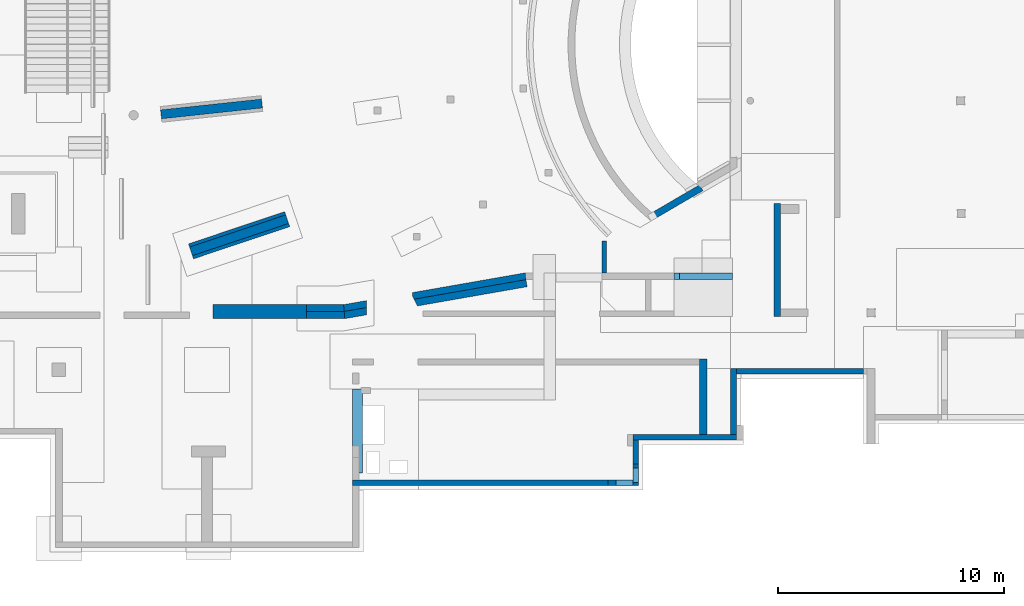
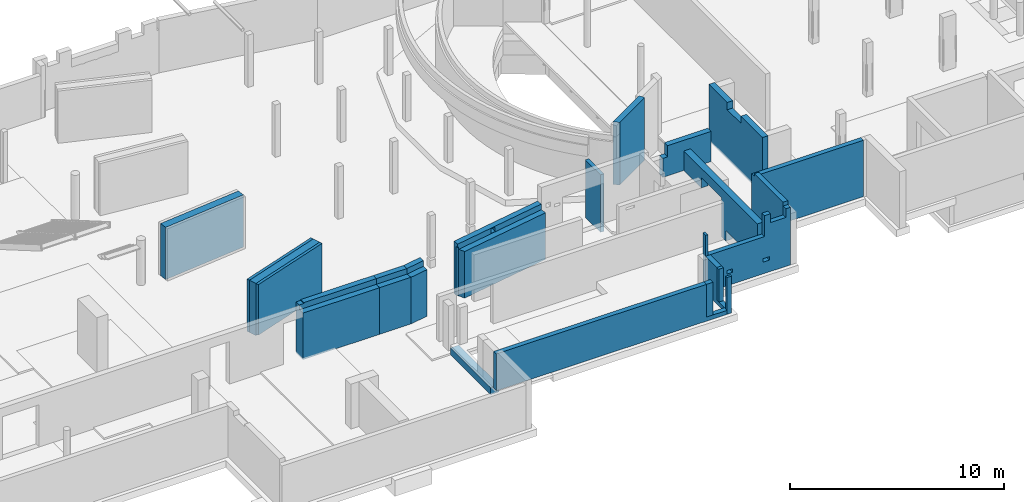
# One storey, part 33 of 42: 22 walls, 13 openings.
"""IFC2X3 building model written with IfcOpenShell, lengths in millimetres."""

from ifc_helpers import new_model, entity, si_unit, converted_unit, derived_unit, direction, frame, frame_2d, origin, origin_2d_with_axis, place, context, subcontext, project, spatial, polyline, circle_curve, parameter, trimmed, segment, composite_curve, rectangle, outline, extrude, clip, halfspace, bounded_halfspace, faceted_brep, material, layer, layer_set, layer_usage, type_object, element, save


model = new_model("IFC2X3")

# Units and contexts
model_context = context("Model", 3, precision=0.01, world=origin(), true_north=direction((6.12303176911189e-17, 1.0)))
body_context = subcontext(model_context, "Body", "Model", "MODEL_VIEW")
ifc_project = project(units=[si_unit("LENGTHUNIT", "METRE", prefix="MILLI"), si_unit("AREAUNIT", "SQUARE_METRE", prefix="MILLI"), si_unit("VOLUMEUNIT", "CUBIC_METRE"), converted_unit("PLANEANGLEUNIT", "DEGREE", entity("IfcRatioMeasure", 0.0174532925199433), si_unit("PLANEANGLEUNIT", "RADIAN"), dimensions=[0, 0, 0, 0, 0, 0, 0]), si_unit("MASSUNIT", "GRAM", prefix="KILO"), derived_unit("MASSDENSITYUNIT", [(si_unit("MASSUNIT", "GRAM", prefix="KILO"), 1), (si_unit("LENGTHUNIT", "METRE"), -3)]), derived_unit("MOMENTOFINERTIAUNIT", [(si_unit("LENGTHUNIT", "METRE"), 4)]), si_unit("TIMEUNIT", "SECOND"), si_unit("FREQUENCYUNIT", "HERTZ"), si_unit("THERMODYNAMICTEMPERATUREUNIT", "DEGREE_CELSIUS"), derived_unit("THERMALTRANSMITTANCEUNIT", [(si_unit("MASSUNIT", "GRAM", prefix="KILO"), 1), (si_unit("THERMODYNAMICTEMPERATUREUNIT", "KELVIN"), -1), (si_unit("TIMEUNIT", "SECOND"), -3)]), derived_unit("VOLUMETRICFLOWRATEUNIT", [(si_unit("LENGTHUNIT", "METRE"), 3), (si_unit("TIMEUNIT", "SECOND"), -1)]), si_unit("ELECTRICCURRENTUNIT", "AMPERE"), si_unit("ELECTRICVOLTAGEUNIT", "VOLT"), si_unit("POWERUNIT", "WATT"), si_unit("FORCEUNIT", "NEWTON", prefix="KILO"), si_unit("ILLUMINANCEUNIT", "LUX"), si_unit("LUMINOUSFLUXUNIT", "LUMEN"), si_unit("LUMINOUSINTENSITYUNIT", "CANDELA"), derived_unit("USERDEFINED", [(si_unit("MASSUNIT", "GRAM", prefix="KILO"), -1), (si_unit("LENGTHUNIT", "METRE"), -2), (si_unit("TIMEUNIT", "SECOND"), 3), (si_unit("LUMINOUSFLUXUNIT", "LUMEN"), 1)]), derived_unit("LINEARVELOCITYUNIT", [(si_unit("LENGTHUNIT", "METRE"), 1), (si_unit("TIMEUNIT", "SECOND"), -1)]), si_unit("PRESSUREUNIT", "PASCAL"), derived_unit("USERDEFINED", [(si_unit("LENGTHUNIT", "METRE"), -2), (si_unit("MASSUNIT", "GRAM", prefix="KILO"), 1), (si_unit("TIMEUNIT", "SECOND"), -2)]), derived_unit("LINEARFORCEUNIT", [(si_unit("MASSUNIT", "GRAM", prefix="KILO"), 1), (si_unit("LENGTHUNIT", "METRE"), 1), (si_unit("TIMEUNIT", "SECOND"), -2), (si_unit("LENGTHUNIT", "METRE"), -1)]), derived_unit("PLANARFORCEUNIT", [(si_unit("MASSUNIT", "GRAM", prefix="KILO"), 1), (si_unit("LENGTHUNIT", "METRE"), 1), (si_unit("TIMEUNIT", "SECOND"), -2), (si_unit("LENGTHUNIT", "METRE"), -2)])], contexts=[model_context])

# Site, building, storey
site_placement = place(None, origin())
site = spatial("IfcSite", under=ifc_project, at=site_placement, Name="Theater aan de Parade", CompositionType="ELEMENT")
building_placement = place(site_placement, origin())
building = spatial("IfcBuilding", under=site, at=building_placement, Name="Theater aan de Parade", CompositionType="ELEMENT")
storey_placement = place(building_placement, frame((0.0, 0.0, -3300.0)))
storey = spatial("IfcBuildingStorey", under=building, at=storey_placement, Name="-1 kelder", CompositionType="ELEMENT", Elevation=-3300.0)

# Walls
ifc_material_1 = material(Name="00_PBT_MAT_beton t.p.g.")
ifc_layer_1 = layer(ifc_material_1, 250.0)
ifc_layer_set_1 = layer_set([ifc_layer_1], Name="Basic Wall:16_PBT_WA_beton t.p.g._d=250_bestaand")
ifc_layer_usage_1 = layer_usage(ifc_layer_set_1, "AXIS2", "POSITIVE", -125.0)
wall_type_1 = type_object("IfcWallType", Name="Basic Wall:16_PBT_WA_beton t.p.g._d=250_bestaand", PredefinedType="STANDARD", material=ifc_layer_set_1)
wall_1_placement = place(storey_placement, frame((69000.0, 17980.0, 660.0)))
element("IfcWallStandardCase", 1, at=wall_1_placement, inside=storey, type_object=wall_type_1, material=ifc_layer_usage_1, Name="Basic Wall:16_PBT_WA_beton t.p.g._d=250_bestaand", ObjectType="Basic Wall:16_PBT_WA_beton t.p.g._d=250_bestaand", context=body_context, shape_type="SweptSolid", body=[
    extrude(rectangle(XDim=5633.5740164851, YDim=249.999999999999, at=frame_2d((2816.78700824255, -6.11066752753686e-13), x_axis=(-1.0, 0.0))), origin(), (0.0, 0.0, 1.0), 3220.0),
])
ifc_layer_usage_2 = layer_usage(ifc_layer_set_1, "AXIS2", "POSITIVE", -125.0)
wall_2_placement = place(storey_placement, frame((68875.0, 15170.0, 520.0), z_axis=(0.0, 0.0, 1.0), x_axis=(0.0, 1.0, 0.0)))
element("IfcWallStandardCase", 2, at=wall_2_placement, inside=storey, type_object=wall_type_1, material=ifc_layer_usage_2, Name="Basic Wall:16_PBT_WA_beton t.p.g._d=250_bestaand", ObjectType="Basic Wall:16_PBT_WA_beton t.p.g._d=250_bestaand", context=body_context, shape_type="Clipping", body=[
    clip(clip(clip(extrude(rectangle(XDim=2934.99999999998, YDim=249.999999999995, at=frame_2d((1467.49999999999, 0.0), x_axis=(-1.0, 0.0))), origin(), (0.0, 0.0, 1.0), 3510.0000000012), bounded_halfspace(frame((0.0, -125.0, 3510.0), z_axis=(0.0, 0.0, -1.0), x_axis=(0.0, 1.0, 0.0)), True, frame((0.0, -125.0, 3510.0), z_axis=(0.0, 0.0, -1.0), x_axis=(0.0, 1.0, 0.0)), polyline([(0.0, 0.0), (250.0, 0.0), (250.0, 2685.0), (0.0, 2685.0), (0.0, 0.0)]))), bounded_halfspace(frame((2685.0, 125.0, 3360.0), z_axis=(0.0, 0.0, -1.0), x_axis=(1.0, 0.0, 0.0)), True, frame((2685.0, 125.0, 3360.0), z_axis=(0.0, 0.0, -1.0), x_axis=(1.0, 0.0, 0.0)), polyline([(0.0, 0.0), (250.0, 0.0), (250.0, 250.0), (0.0, 250.0), (0.0, 0.0)]))), bounded_halfspace(frame((2685.0, -125.0, 3360.0), z_axis=(-1.0, 0.0, 0.0), x_axis=(0.0, 0.0, 1.0)), True, frame((2685.0, -125.0, 3360.0), z_axis=(-1.0, 0.0, 0.0), x_axis=(0.0, 0.0, 1.0)), polyline([(0.0, 0.0), (150.0, 0.0), (150.0, 250.0), (0.0, 250.0), (0.0, 0.0)]))),
])

# Wall, openings
ifc_layer_usage_3 = layer_usage(ifc_layer_set_1, "AXIS2", "POSITIVE", -125.0)
wall_3_placement = place(storey_placement, frame((64420.0, 15045.0, 520.0)))
wall_3 = element("IfcWallStandardCase", 3, at=wall_3_placement, inside=storey, type_object=wall_type_1, material=ifc_layer_usage_3, Name="Basic Wall:16_PBT_WA_beton t.p.g._d=250_bestaand", ObjectType="Basic Wall:16_PBT_WA_beton t.p.g._d=250_bestaand", context=body_context, shape_type="SweptSolid", body=[
    extrude(rectangle(XDim=4580.00000000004, YDim=249.999999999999, at=frame_2d((2290.00000000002, 5.18696197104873e-13), x_axis=(-1.0, 0.0))), origin(), (0.0, 0.0, 1.0), 3289.99999999),
])
opening_1_placement = place(wall_3_placement, origin())
element("IfcOpeningElement", 4, at=opening_1_placement, cuts=wall_3, Name="Basic Wall:16_PBT_WA_beton t.p.g._d=250_bestaand", ObjectType="Opening", context=body_context, shape_type="SweptSolid", body=[
    extrude(rectangle(XDim=200.000000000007, YDim=300.000000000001, at=frame_2d((-1.35003119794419e-13, 0.0), x_axis=(1.0, 0.0))), frame((1300.0, 125.0, 770.0), z_axis=(0.0, -1.0, 0.0), x_axis=(0.0, 0.0, 1.0)), (0.0, 0.0, 1.0), 250.0),
])
opening_2_placement = place(wall_3_placement, origin())
element("IfcOpeningElement", 5, at=opening_2_placement, cuts=wall_3, Name="Basic Wall:16_PBT_WA_beton t.p.g._d=250_bestaand", ObjectType="Opening", context=body_context, shape_type="SweptSolid", body=[
    extrude(rectangle(XDim=200.000000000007, YDim=338.743899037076, at=frame_2d((-1.35003119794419e-13, 0.0), x_axis=(1.0, 0.0))), frame((3280.62805048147, 125.0, 770.0), z_axis=(0.0, -1.0, 0.0), x_axis=(0.0, 0.0, 1.0)), (0.0, 0.0, 1.0), 250.0),
])
opening_3_placement = place(wall_3_placement, origin())
element("IfcOpeningElement", 6, at=opening_3_placement, cuts=wall_3, Name="Basic Wall:16_PBT_WA_beton t.p.g._d=250_bestaand", ObjectType="Opening", context=body_context, shape_type="SweptSolid", body=[
    extrude(rectangle(XDim=500.000000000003, YDim=830.000000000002, at=frame_2d((0.0, 0.0), x_axis=(0.0, 1.0))), frame((3915.0, 125.0, 3040.0), z_axis=(0.0, -1.0, 0.0), x_axis=(-1.0, 0.0, 0.0)), (0.0, 0.0, 1.0), 250.0),
])
opening_4_placement = place(wall_3_placement, origin())
element("IfcOpeningElement", 7, at=opening_4_placement, cuts=wall_3, Name="Basic Wall:16_PBT_WA_beton t.p.g._d=250_bestaand", ObjectType="Opening", context=body_context, shape_type="SweptSolid", body=[
    extrude(rectangle(XDim=1189.99999999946, YDim=3061.05955109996, at=frame_2d((0.0, 0.0), x_axis=(0.0, 1.0))), frame((1655.52977554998, 125.0, 2695.0), z_axis=(0.0, -1.0, 0.0), x_axis=(-1.0, 0.0, 0.0)), (0.0, 0.0, 1.0), 250.0),
])

# Wall, opening
ifc_layer_usage_4 = layer_usage(ifc_layer_set_1, "AXIS2", "POSITIVE", -125.0)
wall_4_placement = place(storey_placement, frame((64545.0, 12910.0, 520.0), z_axis=(0.0, 0.0, 1.0), x_axis=(0.0, 1.0, 0.0)))
wall_4 = element("IfcWallStandardCase", 8, at=wall_4_placement, inside=storey, type_object=wall_type_1, material=ifc_layer_usage_4, Name="Basic Wall:16_PBT_WA_beton t.p.g._d=250_bestaand", ObjectType="Basic Wall:16_PBT_WA_beton t.p.g._d=250_bestaand", context=body_context, shape_type="SweptSolid", body=[
    extrude(rectangle(XDim=2010.0, YDim=249.999999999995, at=frame_2d((1005.0, 0.0), x_axis=(-1.0, 0.0))), origin(), (0.0, 0.0, 1.0), 2099.99999999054),
])
opening_5_placement = place(wall_4_placement, origin())
element("IfcOpeningElement", 9, at=opening_5_placement, cuts=wall_4, Name="Basic Wall:16_PBT_WA_beton t.p.g._d=250_bestaand", ObjectType="Opening", context=body_context, shape_type="SweptSolid", body=[
    extrude(rectangle(XDim=1869.99999999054, YDim=828.289138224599, at=frame_2d((0.0, 0.0), x_axis=(0.0, 1.0))), frame((539.144569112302, 125.0, 1165.0), z_axis=(0.0, -1.0, 0.0), x_axis=(-1.0, 0.0, 0.0)), (0.0, 0.0, 1.0), 250.0),
])

ifc_layer_usage_5 = layer_usage(ifc_layer_set_1, "AXIS2", "POSITIVE", -125.0)
wall_5_placement = place(storey_placement, frame((51975.0, 13035.0, 520.0)))
wall_5 = element("IfcWallStandardCase", 10, at=wall_5_placement, inside=storey, type_object=wall_type_1, material=ifc_layer_usage_5, Name="Basic Wall:16_PBT_WA_beton t.p.g._d=250_bestaand", ObjectType="Basic Wall:16_PBT_WA_beton t.p.g._d=250_bestaand", context=body_context, shape_type="Clipping", body=[
    clip(extrude(rectangle(XDim=12445.0, YDim=249.999999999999, at=frame_2d((6222.5, 5.6843418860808e-14), x_axis=(-1.0, 0.0))), origin(), (0.0, 0.0, 1.0), 2100.00000000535), bounded_halfspace(frame((0.0, -125.0, 2100.0), z_axis=(0.0, 0.0, -1.0), x_axis=(-1.0, 0.0, 0.0)), True, frame((0.0, -125.0, 2100.0), z_axis=(0.0, 0.0, -1.0), x_axis=(-1.0, 0.0, 0.0)), polyline([(0.0, 0.0), (0.0, 250.0), (-11333.5620173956, 250.0), (-11333.5620173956, 0.0), (0.0, 0.0)]))),
])
opening_6_placement = place(wall_5_placement, origin())
element("IfcOpeningElement", 11, at=opening_6_placement, cuts=wall_5, Name="Basic Wall:16_PBT_WA_beton t.p.g._d=250_bestaand", ObjectType="Opening", context=body_context, shape_type="SweptSolid", body=[
    extrude(rectangle(XDim=1999.99999999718, YDim=1236.43798260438, at=frame_2d((0.0, 4.32009983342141e-12), x_axis=(1.0, 0.0))), frame((11951.7810086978, 125.0, 1230.0), z_axis=(0.0, -1.0, 0.0), x_axis=(0.0, 0.0, 1.0)), (0.0, 0.0, 1.0), 250.0),
])

# Wall
ifc_layer_2 = layer(ifc_material_1, 300.0)
ifc_layer_set_2 = layer_set([ifc_layer_2], Name="Basic Wall:28_PBT_WA_beton t.p.g._d=300_bestaand")
ifc_layer_usage_6 = layer_usage(ifc_layer_set_2, "AXIS2", "POSITIVE", -150.0)
wall_type_2 = type_object("IfcWallType", Name="Basic Wall:28_PBT_WA_beton t.p.g._d=300_bestaand", PredefinedType="STANDARD", material=ifc_layer_set_2)
wall_6_placement = place(storey_placement, frame((51610.3377575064, 20780.0, -40.0), z_axis=(0.0, 0.0, 1.0), x_axis=(-1.0, 0.0, 0.0)))
element("IfcWallStandardCase", 12, at=wall_6_placement, inside=storey, type_object=wall_type_2, material=ifc_layer_usage_6, Name="Basic Wall:28_PBT_WA_beton t.p.g._d=300_bestaand", ObjectType="Basic Wall:28_PBT_WA_beton t.p.g._d=300_bestaand", context=body_context, shape_type="SweptSolid", body=[
    extrude(outline(polyline([(-150.0, -823.486989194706), (150.0, -823.486989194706), (150.0, 836.513010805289), (-150.0, 810.460967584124), (-150.0, -823.486989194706)])), frame((836.513010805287, 0.0, 0.0), z_axis=(0.0, 0.0, 1.0), x_axis=(0.0, 1.0, 0.0)), (0.0, 0.0, 1.0), 2980.0),
])

# Wall, openings
ifc_layer_usage_7 = layer_usage(ifc_layer_set_2, "AXIS2", "POSITIVE", -150.0)
wall_7_placement = place(storey_placement, frame((59667.2856211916, 22192.2454299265, -40.0), z_axis=(0.0, 0.0, 1.0), x_axis=(-0.985030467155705, -0.172380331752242, 0.0)))
wall_7 = element("IfcWallStandardCase", 13, at=wall_7_placement, inside=storey, type_object=wall_type_2, material=ifc_layer_usage_7, Name="Basic Wall:28_PBT_WA_beton t.p.g._d=300_bestaand", ObjectType="Basic Wall:28_PBT_WA_beton t.p.g._d=300_bestaand", context=body_context, shape_type="SweptSolid", body=[
    extrude(outline(polyline([(8205.63950350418, 150.0), (26.0520432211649, 150.0), (0.0, -150.0), (8179.587460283, -150.0), (8205.63950350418, 150.0)])), origin(), (0.0, 0.0, 1.0), 2980.0),
])
opening_7_placement = place(wall_7_placement, origin())
element("IfcOpeningElement", 14, at=opening_7_placement, cuts=wall_7, Name="Basic Wall:28_PBT_WA_beton t.p.g._d=300_bestaand", ObjectType="Opening", context=body_context, shape_type="SweptSolid", body=[
    extrude(rectangle(XDim=2980.0, YDim=2040.0, at=origin_2d_with_axis()), frame((6037.92014672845, -607.669780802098, 1490.0), z_axis=(0.172380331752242, 0.985030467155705, 0.0), x_axis=(0.0, 0.0, -1.0)), (0.0, 0.0, 1.0), 1410.00000000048),
])
opening_8_placement = place(wall_7_placement, frame((7262.01332408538, 470.0, 0.0)))
element("IfcOpeningElement", 15, at=opening_8_placement, cuts=wall_7, Name="Basic Wall:28_PBT_WA_beton t.p.g._d=300_bestaand", ObjectType="Recess", context=body_context, shape_type="Brep", body=[
    faceted_brep([(-2302.1041705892, 0.0, 2790.0), (-2106.66996743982, -620.0, 2790.0), (-108.499999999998, -620.0, 2790.0), (0.0, 0.0, 2790.0), (-2302.1041705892, 0.0, 0.0), (0.0, 0.0, 0.0), (-108.499999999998, -620.0, 0.0), (-2106.66996743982, -620.0, 0.0)], [[[0, 1, 2, 3]], [[4, 5, 6, 7]], [[1, 0, 4, 7]], [[2, 1, 7, 6]], [[3, 2, 6, 5]], [[0, 3, 5, 4]]]),
])
opening_9_placement = place(wall_7_placement, origin())
element("IfcOpeningElement", 16, at=opening_9_placement, cuts=wall_7, Name="Basic Wall:28_PBT_WA_beton t.p.g._d=300_bestaand", ObjectType="Opening", context=body_context, shape_type="SweptSolid", body=[
    extrude(rectangle(XDim=250.000000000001, YDim=250.000000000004, at=frame_2d((0.0, -4.33431068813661e-12), x_axis=(1.0, 0.0))), frame((2815.83918823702, -713.835649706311, 2805.0), z_axis=(0.172380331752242, 0.985030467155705, 0.0), x_axis=(0.0, 0.0, -1.0)), (0.0, 0.0, 1.0), 999.999999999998),
])

# Wall, opening
ifc_layer_usage_8 = layer_usage(ifc_layer_set_2, "AXIS2", "POSITIVE", -150.0)
wall_8_placement = place(storey_placement, frame((70810.0, 20395.0, 660.0), z_axis=(0.0, 0.0, 1.0), x_axis=(0.0, 1.0, 0.0)))
wall_8 = element("IfcWallStandardCase", 17, at=wall_8_placement, inside=storey, type_object=wall_type_2, material=ifc_layer_usage_8, Name="Basic Wall:28_PBT_WA_beton t.p.g._d=300_bestaand", ObjectType="Basic Wall:28_PBT_WA_beton t.p.g._d=300_bestaand", context=body_context, shape_type="SweptSolid", body=[
    extrude(rectangle(XDim=5014.99999999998, YDim=300.000000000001, at=frame_2d((2507.49999999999, -5.6843418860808e-14), x_axis=(-1.0, 0.0))), origin(), (0.0, 0.0, 1.0), 3220.0),
])
opening_10_placement = place(wall_8_placement, origin())
element("IfcOpeningElement", 18, at=opening_10_placement, cuts=wall_8, Name="Basic Wall:28_PBT_WA_beton t.p.g._d=300_bestaand", ObjectType="Opening", context=body_context, shape_type="SweptSolid", body=[
    extrude(rectangle(XDim=417.546138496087, YDim=1276.68066899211, at=frame_2d((-2.21689333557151e-12, 0.0), x_axis=(0.0, 1.0))), frame((2666.65966550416, 150.0, 3011.22693075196), z_axis=(0.0, -1.0, 0.0), x_axis=(-1.0, 0.0, 0.0)), (0.0, 0.0, 1.0), 300.0),
])

# Walls
ifc_layer_3 = layer(ifc_material_1, 200.0)
ifc_layer_set_3 = layer_set([ifc_layer_3], Name="Basic Wall:28_PBT_WA_beton t.p.g._d=200_bestaand")
ifc_layer_usage_9 = layer_usage(ifc_layer_set_3, "AXIS2", "POSITIVE", -100.0)
wall_type_3 = type_object("IfcWallType", Name="Basic Wall:28_PBT_WA_beton t.p.g._d=200_bestaand", PredefinedType="STANDARD", material=ifc_layer_set_3)
wall_9_placement = place(storey_placement, frame((63135.0, 22340.0, -40.0), z_axis=(0.0, 0.0, 1.0), x_axis=(0.0, 1.0, 0.0)))
element("IfcWallStandardCase", 19, at=wall_9_placement, inside=storey, type_object=wall_type_3, material=ifc_layer_usage_9, Name="Basic Wall:28_PBT_WA_beton t.p.g._d=200_bestaand", ObjectType="Basic Wall:28_PBT_WA_beton t.p.g._d=200_bestaand", context=body_context, shape_type="SweptSolid", body=[
    extrude(rectangle(XDim=1423.38346774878, YDim=200.000000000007, at=frame_2d((711.691733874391, 0.0), x_axis=(-1.0, 0.0))), origin(), (0.0, 0.0, 1.0), 3280.0),
])
ifc_layer_4 = layer(ifc_material_1, 450.0)
ifc_layer_set_4 = layer_set([ifc_layer_4], Name="Basic Wall:16_PBT_WA_beton t.p.g._d=450_bestaand")
ifc_layer_usage_10 = layer_usage(ifc_layer_set_4, "AXIS2", "POSITIVE", -225.0)
wall_type_4 = type_object("IfcWallType", Name="Basic Wall:16_PBT_WA_beton t.p.g._d=450_bestaand", PredefinedType="STANDARD", material=ifc_layer_set_4)
wall_10_placement = place(storey_placement, frame((52200.0, 13460.0, -40.0), z_axis=(0.0, 0.0, 1.0), x_axis=(0.0, 1.0, 0.0)))
element("IfcWallStandardCase", 20, at=wall_10_placement, inside=storey, type_object=wall_type_4, material=ifc_layer_usage_10, Name="Basic Wall:16_PBT_WA_beton t.p.g._d=450_bestaand", ObjectType="Basic Wall:16_PBT_WA_beton t.p.g._d=450_bestaand", context=body_context, shape_type="SweptSolid", body=[
    extrude(rectangle(XDim=3739.99999999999, YDim=450.000000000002, at=frame_2d((1870.0, 0.0), x_axis=(-1.0, 0.0))), origin(), (0.0, 0.0, 1.0), 410.0),
])
ifc_layer_5 = layer(ifc_material_1, 400.0)
ifc_layer_set_5 = layer_set([ifc_layer_5], Name="Basic Wall:28_PBT_WA_beton t.p.g._d=400_bestaand")
ifc_layer_usage_11 = layer_usage(ifc_layer_set_5, "AXIS2", "NEGATIVE", 200.0)
wall_type_5 = type_object("IfcWallType", Name="Basic Wall:28_PBT_WA_beton t.p.g._d=400_bestaand", PredefinedType="STANDARD", material=ifc_layer_set_5)
wall_11_placement = place(storey_placement, frame((49085.4860795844, 24720.868818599, -40.0), z_axis=(0.0, 0.0, 1.0), x_axis=(-0.948323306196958, -0.317305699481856, 0.0)))
element("IfcWallStandardCase", 21, at=wall_11_placement, inside=storey, type_object=wall_type_5, material=ifc_layer_usage_11, Name="Basic Wall:28_PBT_WA_beton t.p.g._d=400_bestaand", ObjectType="Basic Wall:28_PBT_WA_beton t.p.g._d=400_bestaand", context=body_context, shape_type="SweptSolid", body=[
    extrude(rectangle(XDim=4500.0, YDim=400.000000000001, at=frame_2d((2250.0, 1.70530256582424e-13), x_axis=(-1.0, 0.0))), origin(), (0.0, 0.0, 1.0), 2980.0),
])
ifc_layer_usage_12 = layer_usage(ifc_layer_set_5, "AXIS2", "NEGATIVE", 200.0)
wall_12_placement = place(storey_placement, frame((47966.0069094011, 29847.8913485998, -40.0), z_axis=(0.0, 0.0, 1.0), x_axis=(-0.994276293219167, -0.106839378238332, 0.0)))
element("IfcWallStandardCase", 22, at=wall_12_placement, inside=storey, type_object=wall_type_5, material=ifc_layer_usage_12, Name="Basic Wall:28_PBT_WA_beton t.p.g._d=400_bestaand", ObjectType="Basic Wall:28_PBT_WA_beton t.p.g._d=400_bestaand", context=body_context, shape_type="SweptSolid", body=[
    extrude(rectangle(XDim=4500.0, YDim=399.999999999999, at=frame_2d((2250.0, -3.12638803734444e-13), x_axis=(-1.0, 0.0))), origin(), (0.0, 0.0, 1.0), 2980.0),
])
ifc_material_2 = material(Name="00_PBT_MAT_beton t.p.g._C30/37")
ifc_layer_6 = layer(ifc_material_2, 300.0)
ifc_layer_set_6 = layer_set([ifc_layer_6], Name="Basic Wall:28_PBT_WA_beton t.p.g._d=300_C30/37")
ifc_layer_usage_13 = layer_usage(ifc_layer_set_6, "AXIS2", "POSITIVE", -150.0)
wall_type_6 = type_object("IfcWallType", Name="Basic Wall:28_PBT_WA_beton t.p.g._d=300_C30/37", PredefinedType="STANDARD", material=ifc_layer_set_6)
wall_13_placement = place(storey_placement, frame((67444.0306385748, 26114.5217356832, 310.0), z_axis=(0.0, 0.0, 1.0), x_axis=(-0.86319033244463, -0.504878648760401, 0.0)))
element("IfcWallStandardCase", 23, at=wall_13_placement, inside=storey, type_object=wall_type_6, material=ifc_layer_usage_13, Name="Basic Wall:28_PBT_WA_beton t.p.g._d=300_C30/37", ObjectType="Basic Wall:28_PBT_WA_beton t.p.g._d=300_C30/37", context=body_context, shape_type="SweptSolid", body=[
    extrude(outline(composite_curve([segment(trimmed(circle_curve(frame_2d((-6842.62344539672, -3337.36799052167), x_axis=(-0.86319033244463, 0.504878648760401)), 9827.00108998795), [parameter(229.249374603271)], [parameter(231.109149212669)], True, "PARAMETER"), True, "CONTINUOUS"), segment(polyline([(2344.77090345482, 150.0), (0.0, 150.0)]), True, "CONTINUOUS"), segment(polyline([(0.0, 150.0), (0.0, -150.0)]), True, "CONTINUOUS"), segment(polyline([(0.0, -150.0), (2453.10867830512, -150.0)]), True, "CONTINUOUS")], self_intersect=False)), origin(), (0.0, 0.0, 1.0), 3570.0000000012),
])
ifc_layer_7 = layer(ifc_material_2, 250.0)
ifc_layer_set_7 = layer_set([ifc_layer_7], Name="Basic Wall:16_PBT_WA_beton t.p.g._d=250_C30/37")
ifc_layer_usage_14 = layer_usage(ifc_layer_set_7, "AXIS2", "POSITIVE", -125.0)
wall_type_7 = type_object("IfcWallType", Name="Basic Wall:16_PBT_WA_beton t.p.g._d=250_C30/37", PredefinedType="STANDARD", material=ifc_layer_set_7)
wall_14_placement = place(storey_placement, frame((64545.0, 13685.5493963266, 750.0), z_axis=(0.0, 0.0, 1.0), x_axis=(0.0, 1.0, 0.0)))
element("IfcWallStandardCase", 24, at=wall_14_placement, inside=storey, type_object=wall_type_7, material=ifc_layer_usage_14, Name="Basic Wall:16_PBT_WA_beton t.p.g._d=250_C30/37", ObjectType="Basic Wall:16_PBT_WA_beton t.p.g._d=250_C30/37", context=body_context, shape_type="SweptSolid", body=[
    extrude(rectangle(XDim=177.739741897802, YDim=249.999999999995, at=frame_2d((88.8698709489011, 0.0), x_axis=(-1.0, 0.0))), origin(), (0.0, 0.0, 1.0), 1869.99999999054),
])
ifc_layer_usage_15 = layer_usage(ifc_layer_set_7, "AXIS2", "NEGATIVE", 125.0)
wall_15_placement = place(storey_placement, frame((63665.5990190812, 13035.0, 750.0), z_axis=(0.0, 0.0, 1.0), x_axis=(-1.0, 0.0, 0.0)))
element("IfcWallStandardCase", 25, at=wall_15_placement, inside=storey, type_object=wall_type_7, material=ifc_layer_usage_15, Name="Basic Wall:16_PBT_WA_beton t.p.g._d=250_C30/37", ObjectType="Basic Wall:16_PBT_WA_beton t.p.g._d=250_C30/37", context=body_context, shape_type="Clipping", body=[
    clip(extrude(rectangle(XDim=357.037001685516, YDim=249.999999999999, at=frame_2d((178.518500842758, -2.48689957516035e-13), x_axis=(-1.0, 0.0))), origin(), (0.0, 0.0, 1.0), 1870.00000000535), bounded_halfspace(frame((0.0, -125.0, 1870.0), z_axis=(0.0, 0.0, -1.0), x_axis=(1.0, 0.0, 0.0)), True, frame((0.0, -125.0, 1870.0), z_axis=(0.0, 0.0, -1.0), x_axis=(1.0, 0.0, 0.0)), polyline([(0.0, 0.0), (0.0, -250.0), (357.037001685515, -250.0), (357.037001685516, 0.0), (0.0, 0.0)]))),
])

# Wall, opening
ifc_material_3 = material(Name="00_PBT_MAT_beton t.p.g._C53/65")
ifc_layer_8 = layer(ifc_material_3, 300.0)
ifc_layer_set_8 = layer_set([ifc_layer_8], Name="Basic Wall:28_PBT_WA_beton t.p.g._d=300_C53/65")
ifc_layer_usage_16 = layer_usage(ifc_layer_set_8, "AXIS2", "POSITIVE", -150.0)
wall_type_8 = type_object("IfcWallType", Name="Basic Wall:28_PBT_WA_beton t.p.g._d=300_C53/65", PredefinedType="STANDARD", material=ifc_layer_set_8)
wall_16_placement = place(storey_placement, frame((68831.256100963, 22190.0, 2160.0), z_axis=(0.0, 0.0, 1.0), x_axis=(-1.0, 0.0, 0.0)))
wall_16 = element("IfcWallStandardCase", 26, at=wall_16_placement, inside=storey, type_object=wall_type_8, material=ifc_layer_usage_16, Name="Basic Wall:28_PBT_WA_beton t.p.g._d=300_C53/65", ObjectType="Basic Wall:28_PBT_WA_beton t.p.g._d=300_C53/65", context=body_context, shape_type="Clipping", body=[
    clip(clip(clip(extrude(rectangle(XDim=2599.99999999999, YDim=300.000000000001, at=frame_2d((1299.99999999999, 4.2632564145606e-13), x_axis=(-1.0, 0.0))), origin(), (0.0, 0.0, 1.0), 1750.00000000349), bounded_halfspace(frame((1625.196549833, -150.0, 1720.0), z_axis=(0.0, 0.0, -1.0), x_axis=(-0.499932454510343, 0.866064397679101, 0.0)), True, frame((1625.196549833, -150.0, 1720.0)), polyline([(0.0, 0.0), (729.012396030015, 0.0), (729.012396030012, 300.0), (0.0, 300.0), (0.0, 0.0)]))), bounded_halfspace(frame((0.0, -150.0, 1750.0), z_axis=(0.0, 0.0, -1.0), x_axis=(0.0, -1.0, 0.0)), True, frame((0.0, -150.0, 1750.0)), polyline([(0.0, 0.0), (1625.19654983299, 0.0), (1625.19654983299, 300.0), (1475.0, 300.0), (0.0, 300.0), (0.0, 0.0)]))), halfspace(frame((2600.0, 0.0, 1720.0), z_axis=(0.0, 0.0, 1.0), x_axis=(0.0, 1.0, 0.0)), False)),
])
opening_11_placement = place(wall_16_placement, origin())
element("IfcOpeningElement", 27, at=opening_11_placement, cuts=wall_16, Name="Basic Wall:28_PBT_WA_beton t.p.g._d=300_C53/65", ObjectType="Opening", context=body_context, shape_type="SweptSolid", body=[
    extrude(rectangle(XDim=635.0, YDim=245.791054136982, at=frame_2d((2.27373675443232e-13, 0.0), x_axis=(1.0, 0.0))), frame((2477.1044729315, 150.0, 1402.5), z_axis=(0.0, -1.0, 0.0), x_axis=(0.0, 0.0, 1.0)), (0.0, 0.0, 1.0), 300.0),
])

ifc_layer_9 = layer(ifc_material_3, 350.0)
ifc_layer_set_9 = layer_set([ifc_layer_9], Name="Basic Wall:28_PBT_WA_beton t.p.g._d=350_C53/65")
ifc_layer_usage_17 = layer_usage(ifc_layer_set_9, "AXIS2", "POSITIVE", -175.0)
wall_type_9 = type_object("IfcWallType", Name="Basic Wall:28_PBT_WA_beton t.p.g._d=350_C53/65", PredefinedType="STANDARD", material=ifc_layer_set_9)
wall_17_placement = place(storey_placement, frame((67531.256100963, 15170.0, 520.0), z_axis=(0.0, 0.0, 1.0), x_axis=(0.0, 1.0, 0.0)))
wall_17 = element("IfcWallStandardCase", 28, at=wall_17_placement, inside=storey, type_object=wall_type_9, material=ifc_layer_usage_17, Name="Basic Wall:28_PBT_WA_beton t.p.g._d=350_C53/65", ObjectType="Basic Wall:28_PBT_WA_beton t.p.g._d=350_C53/65", context=body_context, shape_type="Clipping", body=[
    clip(clip(clip(extrude(rectangle(XDim=6870.0, YDim=350.000000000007, at=frame_2d((3435.0, 0.0), x_axis=(-1.0, 0.0))), origin(), (0.0, 0.0, 1.0), 2760.0), bounded_halfspace(frame((6870.0, -175.0, 1640.0), z_axis=(0.0, 0.0, -1.0), x_axis=(1.0, 0.0, 0.0)), False, frame((6870.0, -175.0, 1640.0), z_axis=(0.0, 0.0, -1.0), x_axis=(1.0, 0.0, 0.0)), polyline([(0.0, 0.0), (-1635.00856439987, 0.0), (-1635.00856439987, -350.0), (-1385.00856439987, -350.0), (0.0, -350.0), (0.0, 0.0)]))), bounded_halfspace(frame((2935.0, 175.0, 600.0)), True, frame((2935.0, 175.0, 600.0)), polyline([(0.0, 0.0), (-2935.0, 0.0), (-2935.0, -350.0), (0.0, -350.0), (0.0, 0.0)]))), bounded_halfspace(frame((2935.0, -175.0, 600.0), z_axis=(1.0, 0.0, 0.0), x_axis=(0.0, 0.0, 1.0)), True, frame((2935.0, -175.0, 600.0), z_axis=(1.0, 0.0, 0.0), x_axis=(0.0, 0.0, 1.0)), polyline([(0.0, 0.0), (-600.0, 0.0), (-600.0, -350.0), (0.0, -350.0), (0.0, 0.0)]))),
])
opening_12_placement = place(wall_17_placement, origin())
element("IfcOpeningElement", 29, at=opening_12_placement, cuts=wall_17, Name="Basic Wall:28_PBT_WA_beton t.p.g._d=350_C53/65", ObjectType="Opening", context=body_context, shape_type="SweptSolid", body=[
    extrude(outline(polyline([(-1807.41884317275, -790.0), (1721.21370378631, -790.0), (1721.21370378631, -650.0), (86.2051393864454, -650.0), (86.2051393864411, 1440.0), (-1807.41884317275, 1440.0), (-1807.41884317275, -790.0)])), frame((5148.78629621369, 175.0, 790.0), z_axis=(0.0, -1.0, 0.0), x_axis=(1.0, 0.0, 0.0)), (0.0, 0.0, 1.0), 350.0),
])

# Walls
ifc_layer_10 = layer(ifc_material_2, 150.0)
ifc_layer_set_10 = layer_set([ifc_layer_10], Name="Basic Wall:28_PBT_WA_beton t.p.g._d=150_C30/37")
ifc_layer_usage_18 = layer_usage(ifc_layer_set_10, "AXIS2", "NEGATIVE", 75.0)
wall_type_10 = type_object("IfcWallType", Name="Basic Wall:28_PBT_WA_beton t.p.g._d=150_C30/37", PredefinedType="STANDARD", material=ifc_layer_set_10)
wall_18_placement = place(storey_placement, frame((49172.7451469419, 24460.0799093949, -40.0), z_axis=(0.0, 0.0, 1.0), x_axis=(-0.948323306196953, -0.317305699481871, 0.0)))
element("IfcWallStandardCase", 30, at=wall_18_placement, inside=storey, type_object=wall_type_10, material=ifc_layer_usage_18, Name="Basic Wall:28_PBT_WA_beton t.p.g._d=150_C30/37", ObjectType="Basic Wall:28_PBT_WA_beton t.p.g._d=150_C30/37", context=body_context, shape_type="Clipping", body=[
    clip(clip(extrude(rectangle(XDim=4499.99999999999, YDim=149.999999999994, at=frame_2d((2250.0, 0.0), x_axis=(-1.0, 0.0))), origin(), (0.0, 0.0, 1.0), 2979.99999999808), bounded_halfspace(frame((1712.44048192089, -75.0, 100.0), z_axis=(0.0, 0.0, 1.0), x_axis=(-0.317305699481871, -0.948323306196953, 0.0)), True, frame((1712.44048192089, -75.0, 100.0), z_axis=(0.0, 0.0, 1.0), x_axis=(-0.317305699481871, -0.948323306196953, 0.0)), polyline([(0.0, 0.0), (-884.508522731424, 2643.50765840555), (-1026.75701866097, 2595.91180348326), (-158.173904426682, 0.0), (0.0, 0.0)]))), bounded_halfspace(frame((1762.62996330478, 75.0, 100.0), z_axis=(-0.948323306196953, 0.317305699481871, 0.0), x_axis=(0.0, 0.0, 1.0)), True, frame((1762.62996330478, 75.0, 100.0), z_axis=(-0.948323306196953, 0.317305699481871, 0.0), x_axis=(0.0, 0.0, 1.0)), polyline([(0.0, 0.0), (-100.0, 0.0), (-100.0, -158.173904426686), (0.0, -158.173904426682), (0.0, 0.0)]))),
])
ifc_layer_usage_19 = layer_usage(ifc_layer_set_10, "AXIS2", "POSITIVE", -75.0)
wall_19_placement = place(storey_placement, frame((48998.2270122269, 24981.6577278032, -40.0), z_axis=(0.0, 0.0, 1.0), x_axis=(-0.948323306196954, -0.31730569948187, 0.0)))
element("IfcWallStandardCase", 31, at=wall_19_placement, inside=storey, type_object=wall_type_10, material=ifc_layer_usage_19, Name="Basic Wall:28_PBT_WA_beton t.p.g._d=150_C30/37", ObjectType="Basic Wall:28_PBT_WA_beton t.p.g._d=150_C30/37", context=body_context, shape_type="SweptSolid", body=[
    extrude(rectangle(XDim=4500.0, YDim=149.999999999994, at=frame_2d((2250.00000000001, -3.13349346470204e-12), x_axis=(-1.0, 0.0))), origin(), (0.0, 0.0, 1.0), 2979.99999999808),
])
ifc_layer_11 = layer(ifc_material_2, 320.0)
ifc_layer_set_11 = layer_set([ifc_layer_11], Name="Basic Wall:28_PBT_WA_beton t.p.g._d=320_C30/37")
ifc_layer_usage_20 = layer_usage(ifc_layer_set_11, "AXIS2", "POSITIVE", -160.0)
wall_type_11 = type_object("IfcWallType", Name="Basic Wall:28_PBT_WA_beton t.p.g._d=320_C30/37", PredefinedType="STANDARD", material=ifc_layer_set_11)
wall_20_placement = place(storey_placement, frame((51638.1266036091, 20470.0, -40.0), z_axis=(0.0, 0.0, 1.0), x_axis=(-1.0, 0.0, 0.0)))
element("IfcWallStandardCase", 32, at=wall_20_placement, inside=storey, type_object=wall_type_11, material=ifc_layer_usage_20, Name="Basic Wall:28_PBT_WA_beton t.p.g._d=320_C30/37", ObjectType="Basic Wall:28_PBT_WA_beton t.p.g._d=320_C30/37", context=body_context, shape_type="SweptSolid", body=[
    extrude(outline(polyline([(1687.7888461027, -160.0), (1687.78884610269, 160.0), (0.0, 160.0), (27.7888461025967, -160.0), (1687.7888461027, -160.0)])), origin(), (0.0, 0.0, 1.0), 2660.00000000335),
])
wall_21_placement = place(storey_placement, frame((59695.0614677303, 21882.395125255, -40.0), z_axis=(0.0, 0.0, 1.0), x_axis=(-0.985030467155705, -0.172380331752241, 0.0)))
element("IfcWall", 33, at=wall_21_placement, inside=storey, type_object=wall_type_11, Name="Basic Wall:28_PBT_WA_beton t.p.g._d=320_C30/37", ObjectType="Basic Wall:28_PBT_WA_beton t.p.g._d=320_C30/37", context=body_context, shape_type="SweptSolid", body=[
    extrude(outline(polyline([(-2492.14587167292, -160.0), (2542.58050474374, -160.0), (2441.71123860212, 160.0), (-2492.14587167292, 160.0), (-2492.14587167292, -160.0)])), frame((2492.14587167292, 0.0, 0.0)), (0.0, 0.0, 1.0), 2660.00000000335),
    extrude(outline(polyline([(-117.971230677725, -490.912739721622), (203.233096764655, -490.912739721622), (119.191568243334, 476.860050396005), (-204.453434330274, 504.965429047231), (-117.971230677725, -490.912739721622)])), frame((7700.72158209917, 0.0, 0.0), z_axis=(0.0, 0.0, 1.0), x_axis=(0.0865145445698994, 0.996250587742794, 0.0)), (0.0, 0.0, 1.0), 2660.00000000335),
])

# Wall, opening
ifc_layer_12 = layer(ifc_material_2, 620.0)
ifc_layer_set_12 = layer_set([ifc_layer_12], Name="Basic Wall:28_PBT_WA_beton t.p.g._d=620_C30/37")
ifc_layer_usage_21 = layer_usage(ifc_layer_set_12, "AXIS2", "POSITIVE", -310.0)
wall_type_12 = type_object("IfcWallType", Name="Basic Wall:28_PBT_WA_beton t.p.g._d=620_C30/37", PredefinedType="STANDARD", material=ifc_layer_set_12)
wall_22_placement = place(storey_placement, frame((49950.3377575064, 20620.0, -40.0), z_axis=(0.0, 0.0, 1.0), x_axis=(-1.0, 0.0, 0.0)))
wall_22 = element("IfcWallStandardCase", 34, at=wall_22_placement, inside=storey, type_object=wall_type_12, material=ifc_layer_usage_21, Name="Basic Wall:28_PBT_WA_beton t.p.g._d=620_C30/37", ObjectType="Basic Wall:28_PBT_WA_beton t.p.g._d=620_C30/37", context=body_context, shape_type="Clipping", body=[
    clip(clip(clip(clip(clip(extrude(rectangle(XDim=4145.7676966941, YDim=619.999999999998, at=frame_2d((2072.88384834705, 4.83169060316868e-13), x_axis=(-1.0, 0.0))), origin(), (0.0, 0.0, 1.0), 2980.0000000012), bounded_halfspace(frame((0.0, -10.0, 2980.0), z_axis=(0.0, 0.0, -1.0), x_axis=(-0.866064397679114, 0.49993245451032, 0.0)), True, frame((0.0, -10.0, 2980.0)), polyline([(0.0, 0.0), (0.0, -300.0), (480.337757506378, -300.0), (480.337757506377, 0.0), (0.0, 0.0)]))), bounded_halfspace(frame((3906.07623636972, -310.0, 2930.0), z_axis=(0.0, 0.0, -1.0), x_axis=(-1.0, 0.0, 0.0)), True, frame((3906.07623636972, -310.0, 2930.0), z_axis=(0.0, 0.0, -1.0), x_axis=(-1.0, 0.0, 0.0)), polyline([(0.0, 0.0), (0.0, 300.0), (-239.691460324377, 300.0), (-239.691460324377, 0.0), (0.0, 0.0)]))), bounded_halfspace(frame((3906.07623636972, -310.0, 2980.0), z_axis=(-1.0, 0.0, 0.0), x_axis=(0.0, 0.0, 1.0)), True, frame((3906.07623636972, -310.0, 2980.0), z_axis=(-1.0, 0.0, 0.0), x_axis=(0.0, 0.0, 1.0)), polyline([(0.0, 0.0), (0.0, 300.0), (-50.0, 300.0), (-50.0, 0.0), (0.0, 0.0)]))), bounded_halfspace(frame((0.0, -10.0, 2660.0), z_axis=(0.0, 0.0, -1.0), x_axis=(1.0, 0.0, 0.0)), True, frame((0.0, -10.0, 2660.0), z_axis=(0.0, 0.0, -1.0), x_axis=(1.0, 0.0, 0.0)), polyline([(0.0, 0.0), (0.0, -320.0), (4145.7676966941, -320.0), (4145.7676966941, 0.0), (0.0, 0.0)]))), bounded_halfspace(frame((4145.7676966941, -10.0, 2660.0), z_axis=(0.0, -1.0, 0.0), x_axis=(0.0, 0.0, 1.0)), True, frame((4145.7676966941, -10.0, 2660.0), z_axis=(0.0, -1.0, 0.0), x_axis=(0.0, 0.0, 1.0)), polyline([(0.0, 0.0), (270.0, 0.0), (270.0, 239.691460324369), (320.0, 239.691460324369), (320.0, 3665.42993918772), (320.0, 4145.7676966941), (0.0, 4145.7676966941), (0.0, 0.0)]))),
])
opening_13_placement = place(wall_22_placement, origin())
element("IfcOpeningElement", 35, at=opening_13_placement, cuts=wall_22, Name="Basic Wall:28_PBT_WA_beton t.p.g._d=620_C30/37", ObjectType="Recess", context=body_context, shape_type="SweptSolid", body=[
    extrude(rectangle(XDim=2419.99999999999, YDim=1054.0, at=origin_2d_with_axis()), frame((4672.76769669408, 8.63254699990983, 1210.0), z_axis=(0.0, 1.0, 0.0), x_axis=(0.0, 0.0, -1.0)), (0.0, 0.0, 1.0), 300.000000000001),
])

save(model, "model.ifc")
